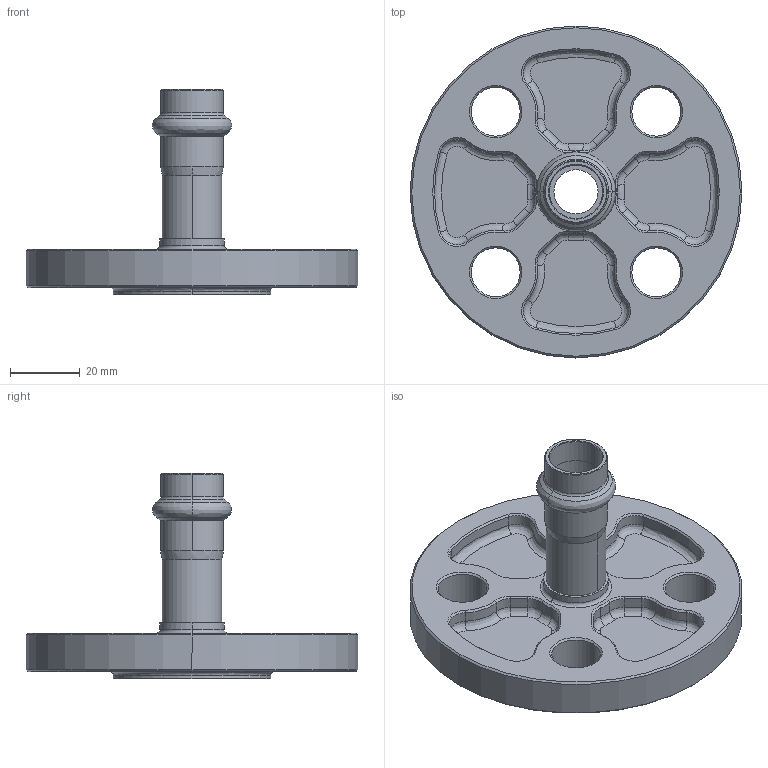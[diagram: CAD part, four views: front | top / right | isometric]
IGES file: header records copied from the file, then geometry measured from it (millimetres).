
Start section: Elysium IGES Interface
Global section: file name: C:\3d modellen sudo\S-Pr VP\SP6500V\6500VW15.igs; native system: CoCreate Modeling 17.00A  17-Jun-2010; preprocessor: CoCreate IGES_3D V2.2; author: Unknown; organization: Unknown; date: 20130129.101145; units: millimetre
Bounding box: 95 x 95 x 58.75 mm (x, y, z)
Volume: 62154.4 mm3; surface area: 25083.3 mm2
Topology: 1 solids, 1 shells, 262 faces, 574 edges, 332 vertices
Faces by surface type: bspline 262
